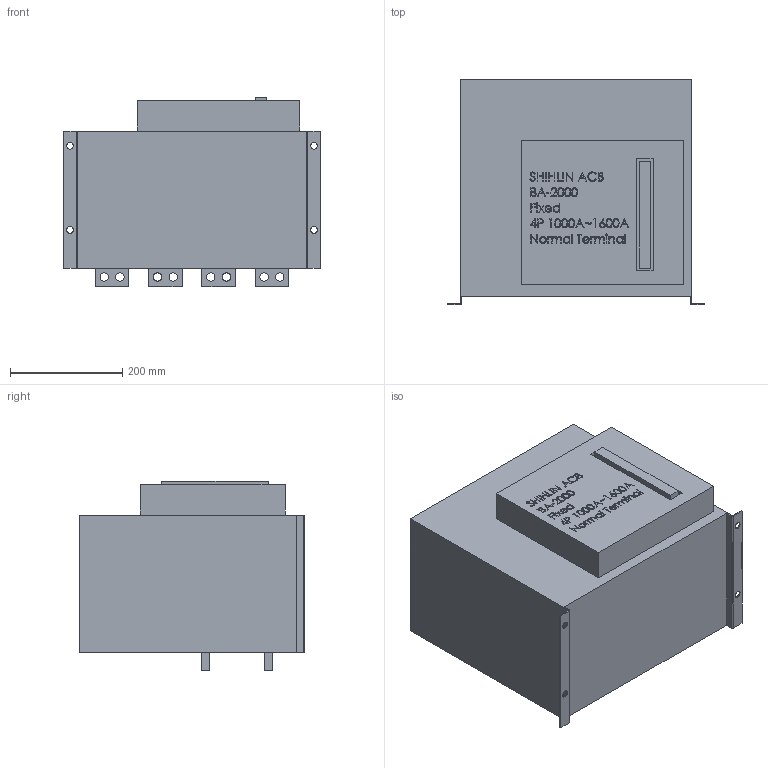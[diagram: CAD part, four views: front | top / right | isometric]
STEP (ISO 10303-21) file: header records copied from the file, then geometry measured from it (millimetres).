
FILE_DESCRIPTION (( 'STEP AP203' ), '1' );
FILE_NAME ('BW-2000-Fixed-4P-1000-1600A-Normal Terminal.STEP', '2020-04-09T10:57:13', ( '' ), ( '' ), 'SwSTEP 2.0', 'SolidWorks 2017', '' );
FILE_SCHEMA (( 'CONFIG_CONTROL_DESIGN' ));
Length unit declared in the file: millimetre
Products named in the file (1): BW-2000-Fixed-4P-1000-1600A-Normal Terminal
Bounding box: 457 x 402 x 337 mm (x, y, z)
Volume: 43404636.7 mm3; surface area: 892267.8 mm2
Topology: 3 solids, 3 shells, 717 faces, 1872 edges, 1248 vertices
Faces by surface type: plane 434, bspline 241, cylinder 42
Entity records: 35749 total; most frequent: CARTESIAN_POINT 19511, ORIENTED_EDGE 3744, DIRECTION 2428, EDGE_CURVE 1872, VECTOR 1306, LINE 1306, VERTEX_POINT 1248, EDGE_LOOP 844
